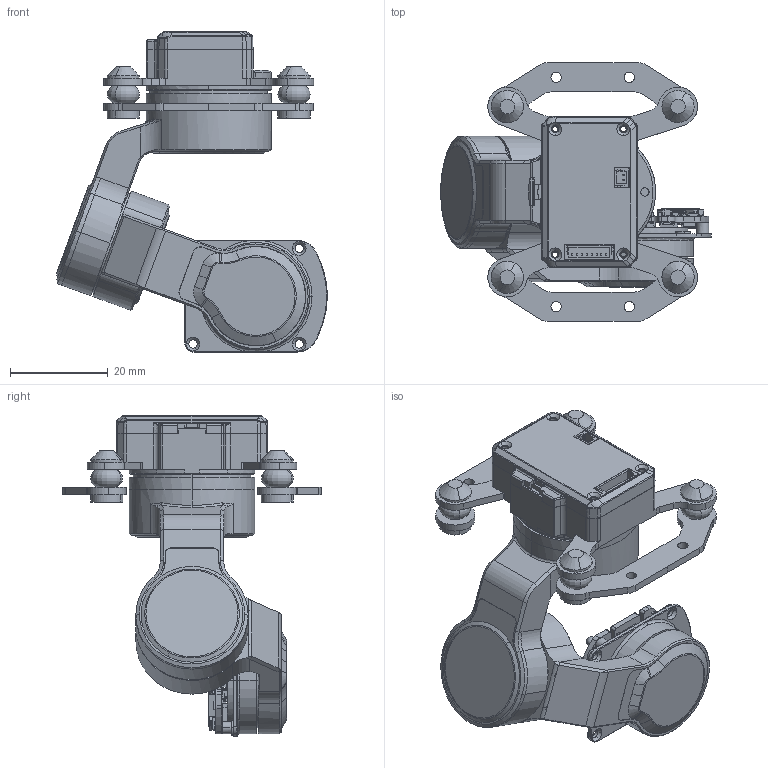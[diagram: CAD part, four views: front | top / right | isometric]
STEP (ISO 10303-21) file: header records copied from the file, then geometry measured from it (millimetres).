
FILE_DESCRIPTION(('CATIA V5 STEP Exchange'),'2;1');
FILE_NAME('D:\Work\SVN个人\01_项目跟踪\24_FPV\01_项目管理资料\输出\C-40T_Simplified Model.stp','2025-11-26T08:05:28+00:00',('none'),('none'),'CATIA Version 5 Release 21 GA (IN-10)','CATIA V5 STEP AP203','none');
FILE_SCHEMA(('CONFIG_CONTROL_DESIGN'));
Products named in the file (1): C-40T
Assembly tree (2 placements, depth 2):
  C-40T
    #58
    #67995
Bounding box: 55.48 x 53.01 x 65.71 mm (x, y, z)
Volume: 25510.6 mm3; surface area: 22642.2 mm2
Topology: 163 solids, 172 shells, 8007 faces, 20669 edges, 12829 vertices
Faces by surface type: plane 4233, cylinder 2378, bspline 905, sphere 242, cone 180, torus 50, extrusion 11, revolution 8
Entity records: 280216 total; most frequent: CARTESIAN_POINT 99703, ORIENTED_EDGE 40434, DIRECTION 30579, EDGE_CURVE 20217, VECTOR 13026, LINE 13015, VERTEX_POINT 12821, AXIS2_PLACEMENT_3D 10561
